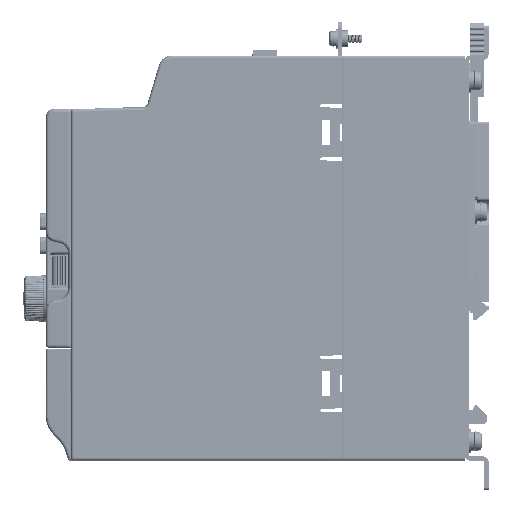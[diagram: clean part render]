
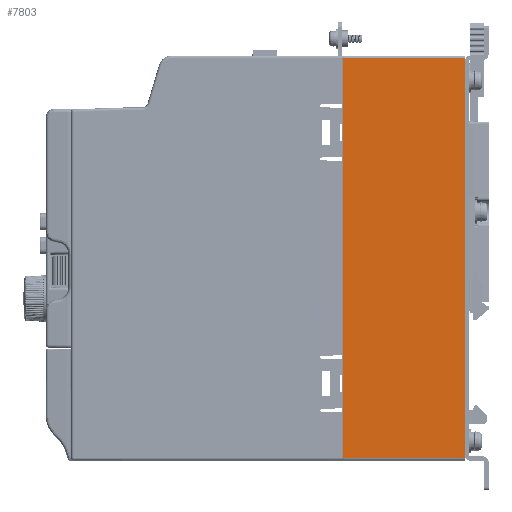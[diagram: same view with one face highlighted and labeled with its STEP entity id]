
A CAD part, left-side view. The second image highlights one B-rep face of the part: STEP entity #7803.
In plain terms, the highlighted planar face has unit normal (-1, 0, 0).
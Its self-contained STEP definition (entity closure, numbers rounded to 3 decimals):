
#1421=DIRECTION('',(0.,1.,0.));
#1422=VECTOR('',#1421,43.8);
#1423=CARTESIAN_POINT('',(-47.5,-44.,71.5));
#1424=LINE('',#1423,#1422);
#3261=DIRECTION('',(0.,-1.,0.));
#3262=VECTOR('',#3261,43.8);
#3263=CARTESIAN_POINT('',(-47.5,-0.2,-71.5));
#3264=LINE('',#3263,#3262);
#3861=DIRECTION('',(0.,0.,-1.));
#3862=VECTOR('',#3861,143.);
#3863=CARTESIAN_POINT('',(-47.5,-0.2,71.5));
#3864=LINE('',#3863,#3862);
#3875=DIRECTION('',(0.,0.,-1.));
#3876=VECTOR('',#3875,143.);
#3877=CARTESIAN_POINT('',(-47.5,-44.,71.5));
#3878=LINE('',#3877,#3876);
#4213=CARTESIAN_POINT('',(-47.5,-0.2,71.5));
#4214=VERTEX_POINT('',#4213);
#4215=CARTESIAN_POINT('',(-47.5,-44.,71.5));
#4216=VERTEX_POINT('',#4215);
#4221=CARTESIAN_POINT('',(-47.5,-44.,-71.5));
#4222=VERTEX_POINT('',#4221);
#4377=CARTESIAN_POINT('',(-47.5,-0.2,-71.5));
#4378=VERTEX_POINT('',#4377);
#7792=CARTESIAN_POINT('',(-47.5,0.,-72.5));
#7793=DIRECTION('',(-1.,0.,0.));
#7794=DIRECTION('',(0.,-1.,0.));
#7795=AXIS2_PLACEMENT_3D('',#7792,#7793,#7794);
#7796=PLANE('',#7795);
#7797=ORIENTED_EDGE('',*,*,#7777,.F.);
#7798=ORIENTED_EDGE('',*,*,#4984,.F.);
#7799=ORIENTED_EDGE('',*,*,#5010,.T.);
#7800=ORIENTED_EDGE('',*,*,#7130,.F.);
#7801=EDGE_LOOP('',(#7797,#7798,#7799,#7800));
#7802=FACE_OUTER_BOUND('',#7801,.F.);
#4984=EDGE_CURVE('',#4216,#4214,#1424,.T.);
#5010=EDGE_CURVE('',#4216,#4222,#3878,.T.);
#7130=EDGE_CURVE('',#4378,#4222,#3264,.T.);
#7777=EDGE_CURVE('',#4214,#4378,#3864,.T.);
#7803=ADVANCED_FACE('',(#7802),#7796,.T.);
